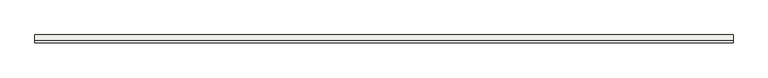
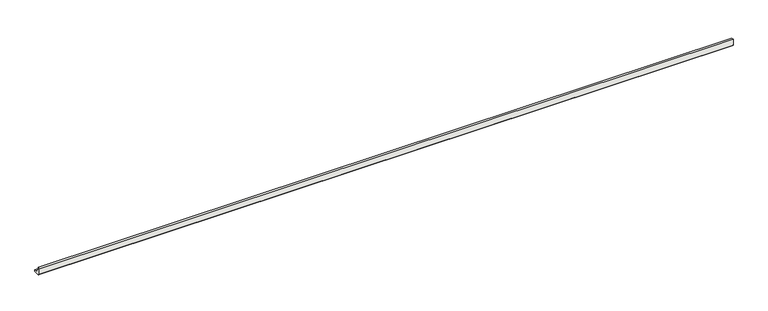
"""IFC4 building model written with IfcOpenShell, lengths in millimetres: slab geometry, ROSA GRES_112 : Pieza 112_Aqua_Plomo_Liso."""

from ifc_helpers import new_model, si_unit, point, frame, frame_2d, origin, place, context, project, spatial, polyline, circle_curve, trimmed, segment, composite_curve, outline, extrude, source, transform, mapped, element, save


def slab_4c87a440(model_context):
    return source(origin(), model_context, "Body", "SweptSolid", [
        extrude(outline(composite_curve([segment(polyline([(0.0, 8.7114978), (0.0, 40.0), (9.9734114, 40.0)]), True, "CONTINUOUS"), segment(trimmed(circle_curve(frame_2d((39.9955547, 39.9955547)), 30.0221435), [point((9.9734114, 40.0))], [point((40.0, 9.9734114))], True, "CARTESIAN"), True, "CONTINUOUS"), segment(polyline([(40.0, 9.9734114), (40.0, 0.0), (8.7114978, 0.0), (0.0, 8.7114978)]), True, "CONTINUOUS")], self_intersect=False)), frame((0.0, 0.0, 0.0), z_axis=(1.0, 0.0, 0.0), x_axis=(0.0, 1.0, 0.0)), (0.0, 0.0, 1.0), 3560.0),
    ])


if __name__ == "__main__":
    model = new_model("IFC4")
    model_context = context("Model", 3, world=origin())
    ifc_project = project(units=[si_unit("LENGTHUNIT", "METRE", prefix="MILLI")], contexts=[model_context])
    site = spatial("IfcSite", under=ifc_project)
    building = spatial("IfcBuilding", under=site)
    placement = place(None, origin())
    slab_shape = slab_4c87a440(model_context)
    element("IfcSlab", 1, ObjectType="ROSA GRES_112 : Pieza 112_Aqua_Plomo_Liso", at=placement, inside=building, context=model_context, shape_type="MappedRepresentation", body=[
        mapped(slab_shape, transform((0.0, 0.0, 0.0), x_axis=(1.0, 0.0, 0.0), y_axis=(0.0, 1.0, 0.0), z_axis=(0.0, 0.0, 1.0))),
    ])
    save(model, "model.ifc")
